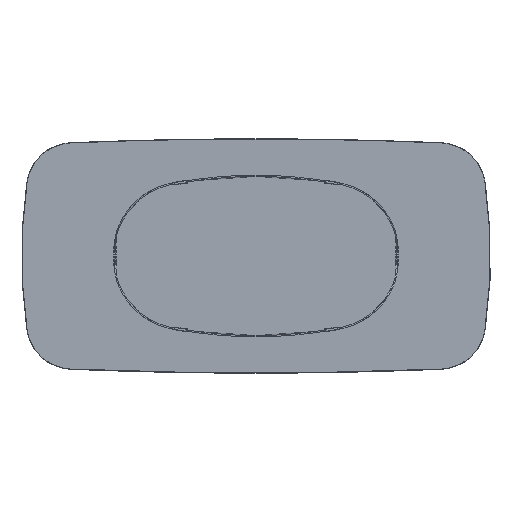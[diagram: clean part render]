
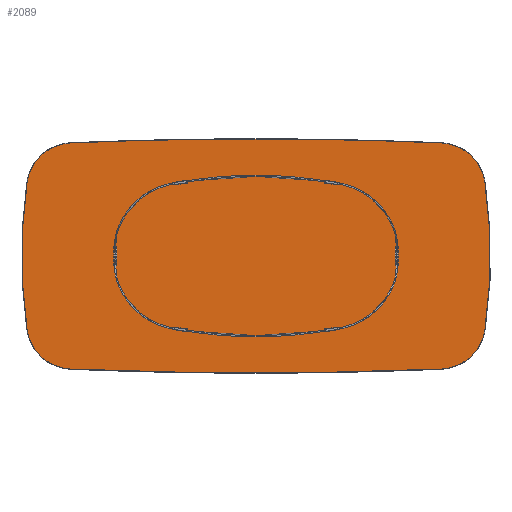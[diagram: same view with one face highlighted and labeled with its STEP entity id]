
A CAD part, front view. The second image highlights one B-rep face of the part: STEP entity #2089.
In plain terms, the highlighted planar face has unit normal (0, -1, 0).
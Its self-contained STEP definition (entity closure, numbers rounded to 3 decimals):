
#222 = DIRECTION ( 'NONE',  ( 0., -1., 0. ) ) ;
#379 = DIRECTION ( 'NONE',  ( 0., -1., 0. ) ) ;
#597 = AXIS2_PLACEMENT_3D ( 'NONE', #13940, #12613, #7049 ) ;
#1165 = AXIS2_PLACEMENT_3D ( 'NONE', #9571, #12315, #1430 ) ;
#1338 = ORIENTED_EDGE ( 'NONE', *, *, #5014, .T. ) ;
#1343 = DIRECTION ( 'NONE',  ( 0., -1., 0. ) ) ;
#1424 = VERTEX_POINT ( 'NONE', #11528 ) ;
#1430 = DIRECTION ( 'NONE',  ( 0., 0., 1. ) ) ;
#1646 = EDGE_CURVE ( 'NONE', #1911, #9032, #4079, .T. ) ;
#1852 = ORIENTED_EDGE ( 'NONE', *, *, #4656, .T. ) ;
#1853 = CIRCLE ( 'NONE', #11726, 149. ) ;
#1911 = VERTEX_POINT ( 'NONE', #15376 ) ;
#2089 = ADVANCED_FACE ( 'NONE', ( #12438 ), #13848, .F. ) ;
#2287 = CIRCLE ( 'NONE', #1165, 13999. ) ;
#2305 = AXIS2_PLACEMENT_3D ( 'NONE', #4956, #15634, #9182 ) ;
#2317 = CARTESIAN_POINT ( 'NONE',  ( -741.613, -5., 238.828 ) ) ;
#2333 = CARTESIAN_POINT ( 'NONE',  ( 741.613, -5., 238.828 ) ) ;
#2571 = ORIENTED_EDGE ( 'NONE', *, *, #8996, .T. ) ;
#2625 = VERTEX_POINT ( 'NONE', #4377 ) ;
#2728 = ORIENTED_EDGE ( 'NONE', *, *, #12922, .T. ) ;
#3289 = CIRCLE ( 'NONE', #11457, 149. ) ;
#3293 = CARTESIAN_POINT ( 'NONE',  ( 594.184, -5., -217.248 ) ) ;
#3643 = VERTEX_POINT ( 'NONE', #10217 ) ;
#4079 = CIRCLE ( 'NONE', #6349, 149. ) ;
#4377 = CARTESIAN_POINT ( 'NONE',  ( -600.577, -5., 366.111 ) ) ;
#4449 = ORIENTED_EDGE ( 'NONE', *, *, #11427, .T. ) ;
#4656 = EDGE_CURVE ( 'NONE', #11066, #9832, #1853, .T. ) ;
#4956 = CARTESIAN_POINT ( 'NONE',  ( -594.184, -5., 217.248 ) ) ;
#4968 = CARTESIAN_POINT ( 'NONE',  ( 600.577, -5., 366.111 ) ) ;
#4992 = DIRECTION ( 'NONE',  ( 0., -1., 0. ) ) ;
#5014 = EDGE_CURVE ( 'NONE', #9832, #1424, #10067, .T. ) ;
#5620 = CARTESIAN_POINT ( 'NONE',  ( 890., -5., 0. ) ) ;
#5978 = CIRCLE ( 'NONE', #7643, 1649. ) ;
#6349 = AXIS2_PLACEMENT_3D ( 'NONE', #3293, #379, #11148 ) ;
#6397 = AXIS2_PLACEMENT_3D ( 'NONE', #5620, #222, #6588 ) ;
#6588 = DIRECTION ( 'NONE',  ( 0., 0., 1. ) ) ;
#7049 = DIRECTION ( 'NONE',  ( 0., 0., 1. ) ) ;
#7439 = DIRECTION ( 'NONE',  ( 0., -1., 0. ) ) ;
#7489 = AXIS2_PLACEMENT_3D ( 'NONE', #8051, #10616, #14785 ) ;
#7643 = AXIS2_PLACEMENT_3D ( 'NONE', #9663, #1343, #8336 ) ;
#8051 = CARTESIAN_POINT ( 'NONE',  ( 0., -5., 13620. ) ) ;
#8053 = ORIENTED_EDGE ( 'NONE', *, *, #11366, .T. ) ;
#8061 = ORIENTED_EDGE ( 'NONE', *, *, #10593, .T. ) ;
#8336 = DIRECTION ( 'NONE',  ( 0., 0., 1. ) ) ;
#8821 = DIRECTION ( 'NONE',  ( 0., 0., 1. ) ) ;
#8996 = EDGE_CURVE ( 'NONE', #3643, #1911, #16245, .T. ) ;
#9032 = VERTEX_POINT ( 'NONE', #10699 ) ;
#9182 = DIRECTION ( 'NONE',  ( 0., 0., 1. ) ) ;
#9571 = CARTESIAN_POINT ( 'NONE',  ( 0., -5., -13620. ) ) ;
#9663 = CARTESIAN_POINT ( 'NONE',  ( -890., -5., 0. ) ) ;
#9832 = VERTEX_POINT ( 'NONE', #4968 ) ;
#10067 = CIRCLE ( 'NONE', #15157, 13999. ) ;
#10217 = CARTESIAN_POINT ( 'NONE',  ( -600.577, -5., -366.111 ) ) ;
#10593 = EDGE_CURVE ( 'NONE', #12646, #14976, #11746, .T. ) ;
#10616 = DIRECTION ( 'NONE',  ( 0., -1., 0. ) ) ;
#10699 = CARTESIAN_POINT ( 'NONE',  ( 741.613, -5., -238.828 ) ) ;
#11066 = VERTEX_POINT ( 'NONE', #2333 ) ;
#11148 = DIRECTION ( 'NONE',  ( 0., 0., 1. ) ) ;
#11366 = EDGE_CURVE ( 'NONE', #1424, #2625, #2287, .T. ) ;
#11427 = EDGE_CURVE ( 'NONE', #9032, #11066, #5978, .T. ) ;
#11457 = AXIS2_PLACEMENT_3D ( 'NONE', #15534, #12803, #8821 ) ;
#11528 = CARTESIAN_POINT ( 'NONE',  ( 0., -5., 379. ) ) ;
#11615 = CIRCLE ( 'NONE', #2305, 149. ) ;
#11678 = DIRECTION ( 'NONE',  ( 0., 0., 1. ) ) ;
#11726 = AXIS2_PLACEMENT_3D ( 'NONE', #15667, #4992, #15584 ) ;
#11746 = CIRCLE ( 'NONE', #6397, 1649. ) ;
#12315 = DIRECTION ( 'NONE',  ( 0., -1., 0. ) ) ;
#12438 = FACE_OUTER_BOUND ( 'NONE', #16035, .T. ) ;
#12613 = DIRECTION ( 'NONE',  ( 0., 1., 0. ) ) ;
#12646 = VERTEX_POINT ( 'NONE', #2317 ) ;
#12803 = DIRECTION ( 'NONE',  ( 0., -1., 0. ) ) ;
#12922 = EDGE_CURVE ( 'NONE', #2625, #12646, #11615, .T. ) ;
#13368 = ORIENTED_EDGE ( 'NONE', *, *, #1646, .T. ) ;
#13848 = PLANE ( 'NONE',  #597 ) ;
#13940 = CARTESIAN_POINT ( 'NONE',  ( -147.908, -5., 108.624 ) ) ;
#14430 = CARTESIAN_POINT ( 'NONE',  ( -741.613, -5., -238.828 ) ) ;
#14785 = DIRECTION ( 'NONE',  ( 0., 0., 1. ) ) ;
#14976 = VERTEX_POINT ( 'NONE', #14430 ) ;
#15157 = AXIS2_PLACEMENT_3D ( 'NONE', #15485, #7439, #11678 ) ;
#15335 = EDGE_CURVE ( 'NONE', #14976, #3643, #3289, .T. ) ;
#15376 = CARTESIAN_POINT ( 'NONE',  ( 600.577, -5., -366.111 ) ) ;
#15485 = CARTESIAN_POINT ( 'NONE',  ( 0., -5., -13620. ) ) ;
#15534 = CARTESIAN_POINT ( 'NONE',  ( -594.184, -5., -217.248 ) ) ;
#15584 = DIRECTION ( 'NONE',  ( 0., 0., 1. ) ) ;
#15634 = DIRECTION ( 'NONE',  ( 0., -1., 0. ) ) ;
#15667 = CARTESIAN_POINT ( 'NONE',  ( 594.184, -5., 217.248 ) ) ;
#16035 = EDGE_LOOP ( 'NONE', ( #16752, #2571, #13368, #4449, #1852, #1338, #8053, #2728, #8061 ) ) ;
#16245 = CIRCLE ( 'NONE', #7489, 13999. ) ;
#16752 = ORIENTED_EDGE ( 'NONE', *, *, #15335, .T. ) ;
